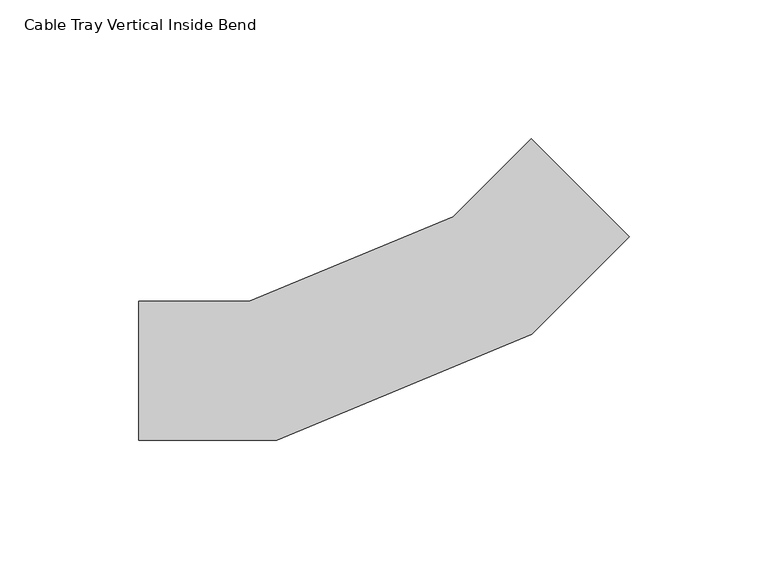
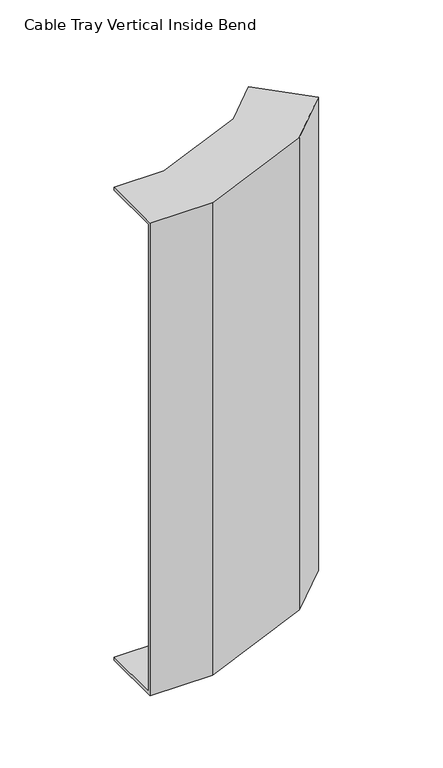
"""IFC4 building model written with IfcOpenShell, lengths in millimetres: cable carrier fitting geometry, Cable Tray Vertical Inside Bend : ELEC_SUB_CT_N2402."""

from ifc_helpers import new_model, si_unit, origin, place, context, project, spatial, faceted_brep, source, transform, mapped, element, save


def cable_tray_vertical_inside_bend_ecdc1448(model_context):
    return source(origin(), model_context, "Body", "Brep", [
        faceted_brep([(-93.1980522, 25.0, 200.0), (-93.1980522, 25.0, 197.46), (-93.1980522, -22.46, 197.46), (-93.1980522, -22.46, -197.46), (-93.1980522, 25.0, -197.46), (-93.1980522, 25.0, -200.0), (-93.1980522, -25.0, -200.0), (-93.1980522, -25.0, 200.0), (48.2233048, 83.5786445, 200.0), (83.578644, 48.2233056, 200.0), (83.578644, 48.2233056, -200.0), (48.2233048, 83.5786445, -200.0), (48.2233048, 83.5786445, -197.46), (81.7825928, 50.0193568, -197.46), (81.7825928, 50.0193568, 197.46), (48.2233048, 83.5786445, 197.46), (-53.4155785, 25.0, 200.0), (-53.4155785, 25.0, 197.46), (20.0928479, 55.4481874, 197.46), (46.9767786, 15.2135422, 197.46), (-43.9751974, -22.46, 197.46), (-43.9751974, -22.46, -197.46), (46.9767786, 15.2135422, -197.46), (20.0928479, 55.4481874, -197.46), (-53.4155785, 25.0, -197.46), (-53.4155785, 25.0, -200.0), (20.0928479, 55.4481874, -200.0), (48.415573, 13.0602342, -200.0), (-43.46996, -25.0, -200.0), (-43.46996, -25.0, 200.0), (48.415573, 13.0602342, 200.0), (20.0928479, 55.4481874, 200.0)], [[[0, 1, 2, 3, 4, 5, 6, 7]], [[8, 9, 10, 11, 12, 13, 14, 15]], [[1, 0, 16, 17]], [[2, 1, 17, 18, 15, 14, 19, 20]], [[3, 2, 20, 21]], [[4, 3, 21, 22, 13, 12, 23, 24]], [[5, 4, 24, 25]], [[6, 5, 25, 26, 11, 10, 27, 28]], [[7, 6, 28, 29]], [[0, 7, 29, 30, 9, 8, 31, 16]], [[17, 16, 31, 18]], [[21, 20, 19, 22]], [[25, 24, 23, 26]], [[29, 28, 27, 30]], [[18, 31, 8, 15]], [[22, 19, 14, 13]], [[26, 23, 12, 11]], [[30, 27, 10, 9]]]),
    ])


if __name__ == "__main__":
    model = new_model("IFC4")
    model_context = context("Model", 3, world=origin())
    ifc_project = project(units=[si_unit("LENGTHUNIT", "METRE", prefix="MILLI")], contexts=[model_context])
    site = spatial("IfcSite", under=ifc_project)
    building = spatial("IfcBuilding", under=site)
    placement = place(None, origin())
    cable_tray_vertical_inside_bend_shape = cable_tray_vertical_inside_bend_ecdc1448(model_context)
    element("IfcCableCarrierFitting", 1, ObjectType="Cable Tray Vertical Inside Bend : ELEC_SUB_CT_N2402", at=placement, inside=building, context=model_context, shape_type="MappedRepresentation", body=[
        mapped(cable_tray_vertical_inside_bend_shape, transform((0.0, 0.0, 0.0), x_axis=(1.0, 0.0, 0.0), y_axis=(0.0, 1.0, 0.0), z_axis=(0.0, 0.0, 1.0))),
    ])
    save(model, "model.ifc")
